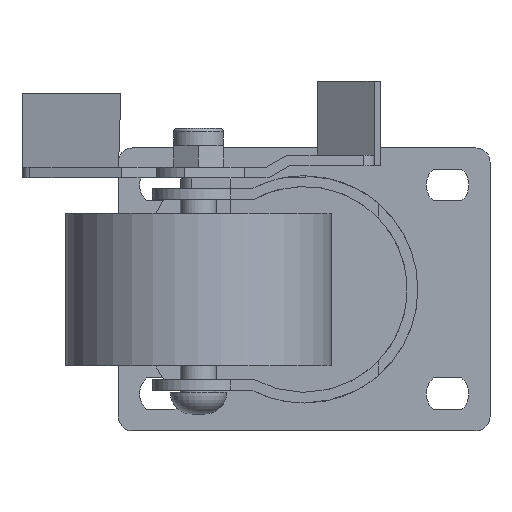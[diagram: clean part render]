
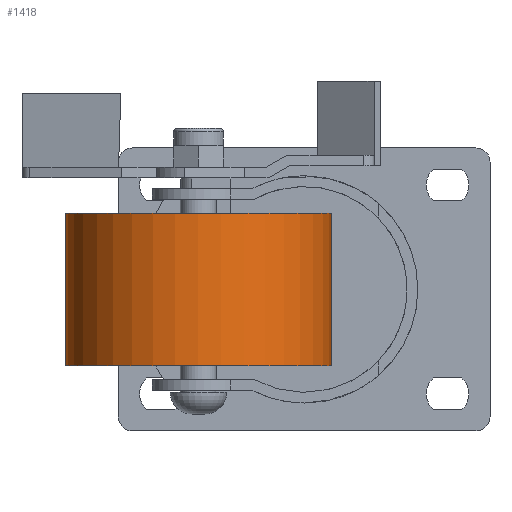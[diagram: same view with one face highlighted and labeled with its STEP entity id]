
A CAD part, front view. The second image highlights one B-rep face of the part: STEP entity #1418.
In plain terms, the highlighted cylindrical face has radius 37.5 mm (diameter 75 mm), a partial arc.
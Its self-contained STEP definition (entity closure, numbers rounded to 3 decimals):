
#23 = DIRECTION ( 'NONE',  ( 0., 0., 1. ) ) ;
#77 = LINE ( 'NONE', #251, #4369 ) ;
#251 = CARTESIAN_POINT ( 'NONE',  ( 289.115, 123.133, -60.5 ) ) ;
#335 = VECTOR ( 'NONE', #2581, 1000. ) ;
#401 = ORIENTED_EDGE ( 'NONE', *, *, #473, .T. ) ;
#473 = EDGE_CURVE ( 'NONE', #3208, #3252, #77, .T. ) ;
#547 = CARTESIAN_POINT ( 'NONE',  ( 214.115, 123.133, -56.5 ) ) ;
#693 = EDGE_CURVE ( 'NONE', #4116, #3208, #2080, .T. ) ;
#912 = FACE_OUTER_BOUND ( 'NONE', #4057, .T. ) ;
#1300 = DIRECTION ( 'NONE',  ( 0., 0., 1. ) ) ;
#1418 = ADVANCED_FACE ( 'NONE', ( #912 ), #2985, .T. ) ;
#1505 = CARTESIAN_POINT ( 'NONE',  ( 251.615, 123.133, -13.5 ) ) ;
#1517 = DIRECTION ( 'NONE',  ( 0., 0., 1. ) ) ;
#1921 = DIRECTION ( 'NONE',  ( 1., 0., 0. ) ) ;
#2034 = ORIENTED_EDGE ( 'NONE', *, *, #3551, .F. ) ;
#2045 = AXIS2_PLACEMENT_3D ( 'NONE', #4207, #1300, #3804 ) ;
#2080 = CIRCLE ( 'NONE', #3193, 37.5 ) ;
#2199 = VERTEX_POINT ( 'NONE', #2900 ) ;
#2496 = ORIENTED_EDGE ( 'NONE', *, *, #5045, .F. ) ;
#2518 = CARTESIAN_POINT ( 'NONE',  ( 251.615, 123.133, -56.5 ) ) ;
#2560 = CARTESIAN_POINT ( 'NONE',  ( 214.115, 123.133, -60.5 ) ) ;
#2581 = DIRECTION ( 'NONE',  ( 0., 0., 1. ) ) ;
#2900 = CARTESIAN_POINT ( 'NONE',  ( 214.115, 123.133, -13.5 ) ) ;
#2921 = DIRECTION ( 'NONE',  ( 1., 0., 0. ) ) ;
#2985 = CYLINDRICAL_SURFACE ( 'NONE', #2045, 37.5 ) ;
#3193 = AXIS2_PLACEMENT_3D ( 'NONE', #2518, #23, #2921 ) ;
#3208 = VERTEX_POINT ( 'NONE', #3322 ) ;
#3252 = VERTEX_POINT ( 'NONE', #4178 ) ;
#3322 = CARTESIAN_POINT ( 'NONE',  ( 289.115, 123.133, -56.5 ) ) ;
#3551 = EDGE_CURVE ( 'NONE', #4116, #2199, #3666, .T. ) ;
#3666 = LINE ( 'NONE', #2560, #335 ) ;
#3684 = ORIENTED_EDGE ( 'NONE', *, *, #693, .T. ) ;
#3804 = DIRECTION ( 'NONE',  ( 1., 0., 0. ) ) ;
#4057 = EDGE_LOOP ( 'NONE', ( #2034, #3684, #401, #2496 ) ) ;
#4116 = VERTEX_POINT ( 'NONE', #547 ) ;
#4178 = CARTESIAN_POINT ( 'NONE',  ( 289.115, 123.133, -13.5 ) ) ;
#4207 = CARTESIAN_POINT ( 'NONE',  ( 251.615, 123.133, -60.5 ) ) ;
#4369 = VECTOR ( 'NONE', #1517, 1000. ) ;
#4414 = DIRECTION ( 'NONE',  ( 0., 0., 1. ) ) ;
#4904 = CIRCLE ( 'NONE', #5210, 37.5 ) ;
#5045 = EDGE_CURVE ( 'NONE', #2199, #3252, #4904, .T. ) ;
#5210 = AXIS2_PLACEMENT_3D ( 'NONE', #1505, #4414, #1921 ) ;
